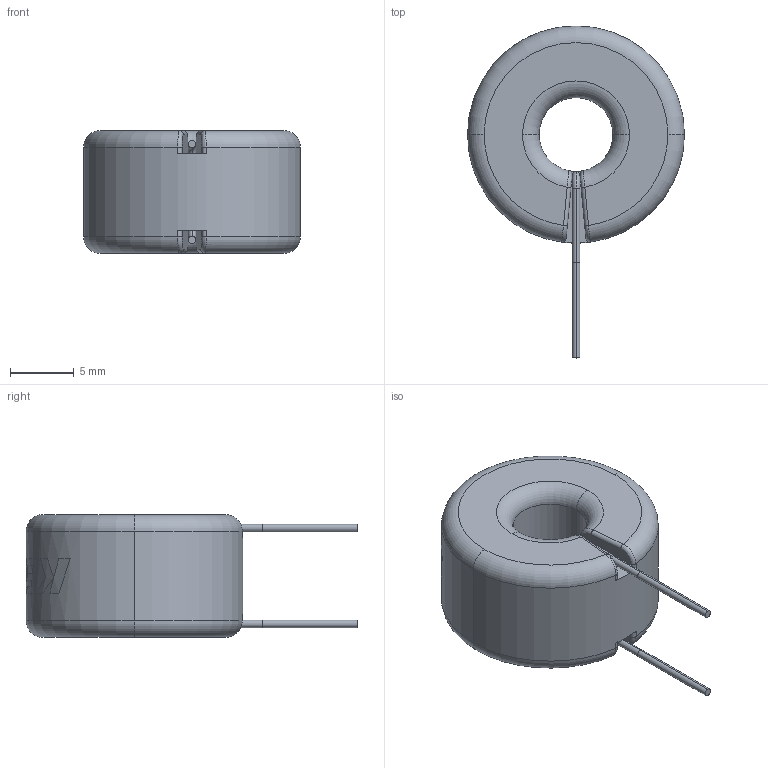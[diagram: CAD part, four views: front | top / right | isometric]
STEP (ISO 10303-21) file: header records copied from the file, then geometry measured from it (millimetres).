
FILE_DESCRIPTION (( 'STEP AP214' ), '1' );
FILE_NAME ('HHBC8S-0R6A0067V(MAX).STEP', '2019-01-29T04:23:43', ( '' ), ( '' ), 'SwSTEP 2.0', 'SolidWorks 2018', '' );
FILE_SCHEMA (( 'AUTOMOTIVE_DESIGN' ));
Length unit declared in the file: millimetre
Products named in the file (1): HHBC8S-0R6A0067V(MAX)
Bounding box: 17 x 26 x 9.6 mm (x, y, z)
Volume: 1861.8 mm3; surface area: 1091.9 mm2
Topology: 1 solids, 1 shells, 64 faces, 196 edges, 137 vertices
Faces by surface type: cylinder 30, torus 16, plane 10, bspline 8
Entity records: 3437 total; most frequent: CARTESIAN_POINT 1019, ORIENTED_EDGE 392, DIRECTION 317, EDGE_CURVE 196, VERTEX_POINT 137, AXIS2_PLACEMENT_3D 137, CIRCLE 80, B_SPLINE_CURVE_WITH_KNOTS 73
